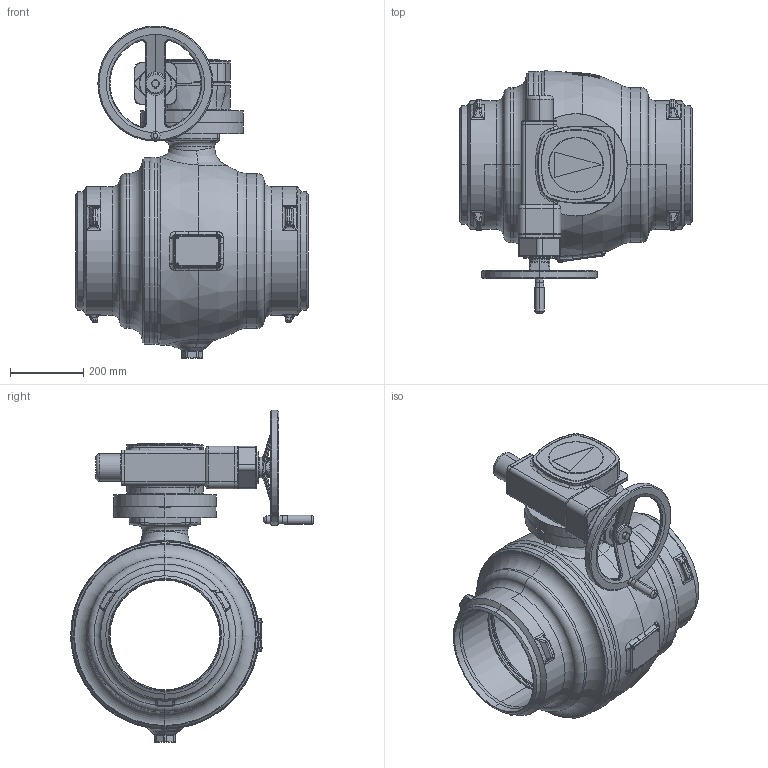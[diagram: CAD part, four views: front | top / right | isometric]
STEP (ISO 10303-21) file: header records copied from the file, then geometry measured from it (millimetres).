
FILE_DESCRIPTION((''),'2;1');
FILE_NAME('ASM0011_ASM','2016-04-29T',('schwaba'),('RAND'),'PRO/ENGINEER BY PARAMETRIC TECHNOLOGY CORPORATION, 2013410','PRO/ENGINEER BY PARAMETRIC TECHNOLOGY CORPORATION, 2013410','');
FILE_SCHEMA(('CONFIG_CONTROL_DESIGN'));
Length unit declared in the file: millimetre
Products named in the file (7): KHISL300VSL300P040MKK_SW0001; PRT0012; PRT0013; PRT0014; ASM0013_ASM; ASM0012_ASM; ASM0011_ASM
Assembly tree (6 placements, depth 4):
  ASM0011_ASM
    KHISL300VSL300P040MKK_SW0001
    ASM0012_ASM
      ASM0013_ASM
        PRT0012
        PRT0013
        PRT0014
Bounding box: 635 x 664 x 908.5 mm (x, y, z)
Volume: 42879378.5 mm3; surface area: 4365106.7 mm2
Topology: 4 solids, 13 shells, 2230 faces, 5599 edges, 3469 vertices
Faces by surface type: plane 1074, cylinder 449, torus 248, bspline 197, cone 192, sphere 70
Entity records: 125327 total; most frequent: CARTESIAN_POINT 72139, DIRECTION 11537, ORIENTED_EDGE 11142, EDGE_CURVE 5571, AXIS2_PLACEMENT_3D 4886, VERTEX_POINT 3469, CIRCLE 2836, EDGE_LOOP 2408
